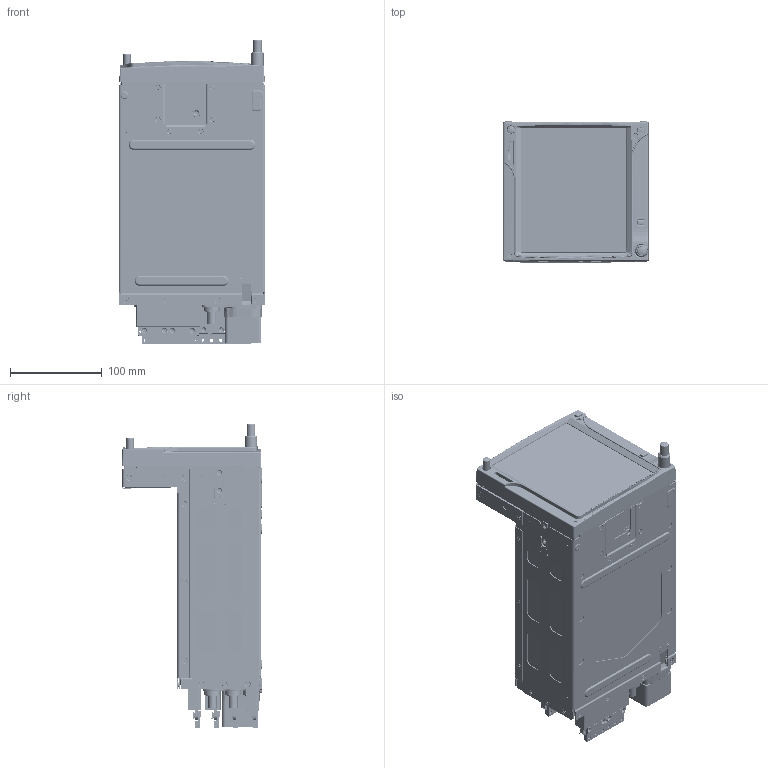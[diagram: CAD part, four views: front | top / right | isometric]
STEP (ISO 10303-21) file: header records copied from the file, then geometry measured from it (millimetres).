
FILE_DESCRIPTION (( 'STEP AP203' ), '1' );
FILE_NAME ('GTN7XX_rev1_1.STEP', '2017-08-29T22:52:12', ( 'Garmin' ), ( 'Garmin' ), 'SwSTEP 2.0', 'SolidWorks 2016', '' );
FILE_SCHEMA (( 'CONFIG_CONTROL_DESIGN' ));
Products named in the file (1): GTN7XX_rev1_1
Bounding box: 160.02 x 153.67 x 332.58 mm (x, y, z)
Volume: 3932515.6 mm3; surface area: 503617.4 mm2
Topology: 9 solids, 19 shells, 5502 faces, 13915 edges, 8611 vertices
Faces by surface type: plane 1934, cylinder 1699, bspline 1460, cone 397, torus 12
Full cylindrical faces by diameter (mm): 1.397 x6, 1.52 x3, 1.587 x2, 1.702 x12, 1.778 x2, 2.007 x24, 2.032 x4, 2.261 x32, 2.438 x6, 2.527 x2, 2.54 x3, 2.705 x1, 2.845 x1, 2.921 x1, 3.048 x10, 3.175 x9, 3.264 x29, 3.302 x14, 3.353 x24, 3.429 x6, 3.454 x29, 3.81 x3, 4.572 x3, 4.699 x3, 4.7 x3, 5.207 x1, 5.309 x1, 5.385 x24, 5.41 x16, 5.588 x4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
Entity records: 217919 total; most frequent: CARTESIAN_POINT 99260, ORIENTED_EDGE 25794, DIRECTION 21944, EDGE_CURVE 12897, VERTEX_POINT 8316, AXIS2_PLACEMENT_3D 7998, EDGE_LOOP 6749, FACE_OUTER_BOUND 5966
